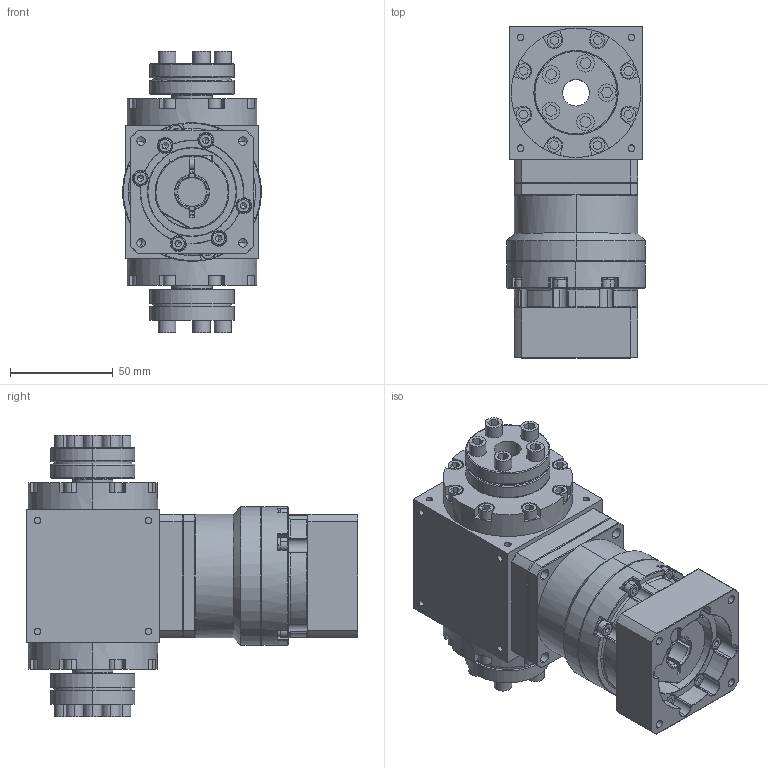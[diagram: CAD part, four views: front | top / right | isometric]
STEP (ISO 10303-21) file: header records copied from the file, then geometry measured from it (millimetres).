
FILE_DESCRIPTION (( 'STEP AP203' ), '1' );
FILE_NAME ('AT065-FC-L1 14-50-70-M5.STEP', '2024-12-18T06:37:10', ( '' ), ( '' ), 'SwSTEP 2.0', 'SolidWorks 2021', '' );
FILE_SCHEMA (( 'CONFIG_CONTROL_DESIGN' ));
Length unit declared in the file: millimetre
Products named in the file (3): VRB-060-L1-S2-P1 14-50-70-M5; AT065-FC; AT065-FC-L1 14-50-70-M5
Assembly tree (2 placements, depth 2):
  AT065-FC-L1 14-50-70-M5
    AT065-FC
    VRB-060-L1-S2-P1 14-50-70-M5
Bounding box: 67.5 x 161.5 x 137 mm (x, y, z)
Volume: 656952.1 mm3; surface area: 121836.2 mm2
Topology: 33 solids, 33 shells, 1604 faces, 3997 edges, 2524 vertices
Faces by surface type: plane 716, cylinder 594, cone 216, torus 54, bspline 24
Entity records: 48892 total; most frequent: CARTESIAN_POINT 10315, DIRECTION 8266, ORIENTED_EDGE 7878, EDGE_CURVE 3939, AXIS2_PLACEMENT_3D 3144, VERTEX_POINT 2524, LINE 1978, VECTOR 1978
